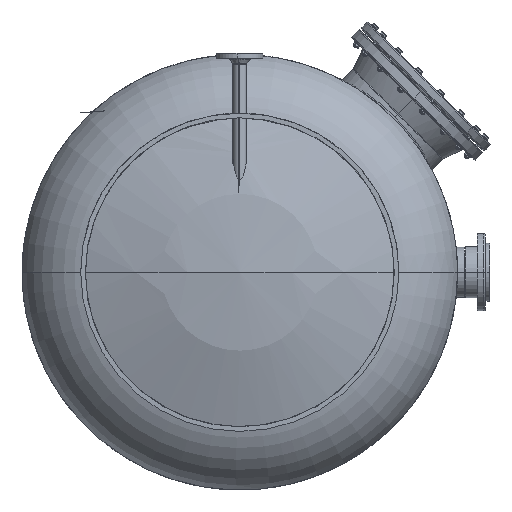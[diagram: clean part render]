
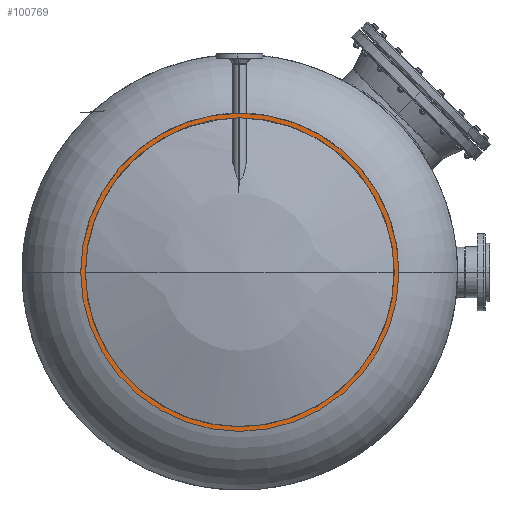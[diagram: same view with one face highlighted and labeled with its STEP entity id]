
A CAD part, front view. The second image highlights one B-rep face of the part: STEP entity #100769.
In plain terms, the highlighted planar face has unit normal (0, -1, 0).
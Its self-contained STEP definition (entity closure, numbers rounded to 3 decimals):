
#1985 = ORIENTED_EDGE ( 'NONE', *, *, #105983, .T. ) ;
#4967 = EDGE_LOOP ( 'NONE', ( #69737, #1985 ) ) ;
#11701 = DIRECTION ( 'NONE',  ( 0., -1., 0. ) ) ;
#11969 = ORIENTED_EDGE ( 'NONE', *, *, #97335, .T. ) ;
#12896 = VERTEX_POINT ( 'NONE', #37798 ) ;
#21568 = AXIS2_PLACEMENT_3D ( 'NONE', #96338, #78612, #37926 ) ;
#27619 = CIRCLE ( 'NONE', #102979, 500. ) ;
#28111 = EDGE_CURVE ( 'NONE', #12896, #83406, #48706, .T. ) ;
#33751 = CARTESIAN_POINT ( 'NONE',  ( 0., 0., -515. ) ) ;
#36444 = EDGE_LOOP ( 'NONE', ( #66331, #11969 ) ) ;
#36799 = DIRECTION ( 'NONE',  ( 0., 1., 0. ) ) ;
#37798 = CARTESIAN_POINT ( 'NONE',  ( 1015., 0., -515. ) ) ;
#37926 = DIRECTION ( 'NONE',  ( 1., 0., 0. ) ) ;
#39512 = AXIS2_PLACEMENT_3D ( 'NONE', #104504, #63631, #106102 ) ;
#44686 = CIRCLE ( 'NONE', #39512, 515. ) ;
#45929 = PLANE ( 'NONE',  #21568 ) ;
#48706 = CIRCLE ( 'NONE', #76045, 500. ) ;
#59485 = AXIS2_PLACEMENT_3D ( 'NONE', #103828, #68909, #77507 ) ;
#62493 = FACE_OUTER_BOUND ( 'NONE', #36444, .T. ) ;
#63498 = CARTESIAN_POINT ( 'NONE',  ( 515., 0., -515. ) ) ;
#63631 = DIRECTION ( 'NONE',  ( 0., -1., 0. ) ) ;
#66331 = ORIENTED_EDGE ( 'NONE', *, *, #80424, .F. ) ;
#68909 = DIRECTION ( 'NONE',  ( 0., 1., 0. ) ) ;
#69737 = ORIENTED_EDGE ( 'NONE', *, *, #28111, .F. ) ;
#70165 = VERTEX_POINT ( 'NONE', #106162 ) ;
#70503 = DIRECTION ( 'NONE',  ( 1., 0., 0. ) ) ;
#72097 = VERTEX_POINT ( 'NONE', #33751 ) ;
#76045 = AXIS2_PLACEMENT_3D ( 'NONE', #101208, #11701, #93122 ) ;
#77507 = DIRECTION ( 'NONE',  ( 1., 0., 0. ) ) ;
#78612 = DIRECTION ( 'NONE',  ( 0., 1., 0. ) ) ;
#80424 = EDGE_CURVE ( 'NONE', #70165, #72097, #99026, .T. ) ;
#83406 = VERTEX_POINT ( 'NONE', #92243 ) ;
#92243 = CARTESIAN_POINT ( 'NONE',  ( 15., 0., -515. ) ) ;
#93122 = DIRECTION ( 'NONE',  ( 1., 0., 0. ) ) ;
#96338 = CARTESIAN_POINT ( 'NONE',  ( 515., 0., -515. ) ) ;
#97335 = EDGE_CURVE ( 'NONE', #70165, #72097, #44686, .T. ) ;
#99026 = CIRCLE ( 'NONE', #59485, 515. ) ;
#100769 = ADVANCED_FACE ( 'NONE', ( #62493, #102823 ), #45929, .F. ) ;
#101208 = CARTESIAN_POINT ( 'NONE',  ( 515., 0., -515. ) ) ;
#102823 = FACE_BOUND ( 'NONE', #4967, .T. ) ;
#102979 = AXIS2_PLACEMENT_3D ( 'NONE', #63498, #36799, #70503 ) ;
#103828 = CARTESIAN_POINT ( 'NONE',  ( 515., 0., -515. ) ) ;
#104504 = CARTESIAN_POINT ( 'NONE',  ( 515., 0., -515. ) ) ;
#105983 = EDGE_CURVE ( 'NONE', #12896, #83406, #27619, .T. ) ;
#106102 = DIRECTION ( 'NONE',  ( 1., 0., 0. ) ) ;
#106162 = CARTESIAN_POINT ( 'NONE',  ( 1030., 0., -515. ) ) ;
